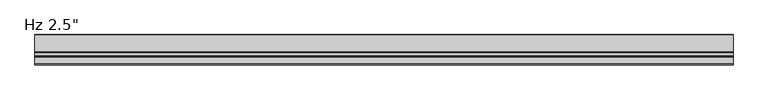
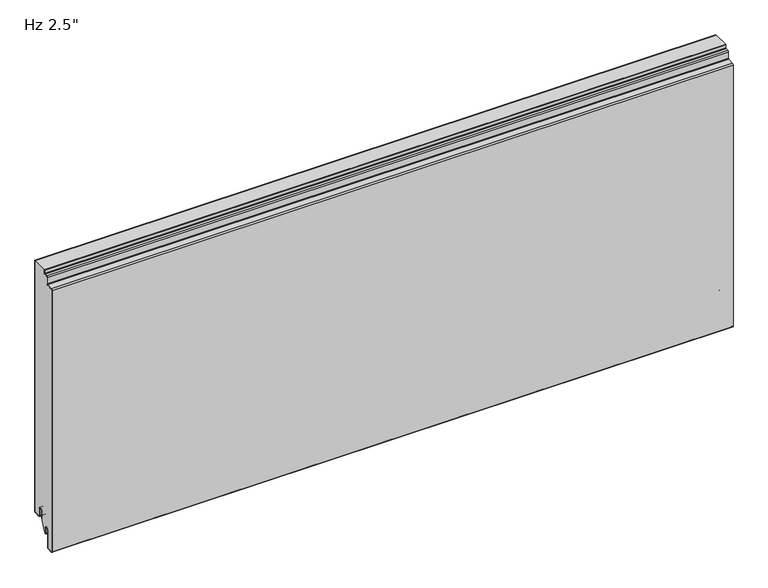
"""IFC4 building model written with IfcOpenShell, lengths in millimetres: plate geometry."""

from ifc_helpers import new_model, si_unit, point, frame, frame_2d, origin, place, context, project, spatial, polyline, circle_curve, trimmed, segment, composite_curve, outline, extrude, source, transform, mapped, element, save


def plate_5605c388(model_context):
    return source(origin(), model_context, "Body", "SweptSolid", [
        extrude(outline(composite_curve([segment(trimmed(circle_curve(frame_2d((-21.43125, 19.05)), 4.96875), [point((-16.4625, 19.05))], [point((-26.4, 19.05))], True, "CARTESIAN"), True, "CONTINUOUS"), segment(polyline([(-26.4, 19.05), (-26.4, -3.1323422), (-36.5326309, -23.01875), (-38.1, -23.01875), (-38.1, -13.5080174), (-38.89375, -13.5080174), (-38.6875, -11.9205174)]), True, "CONTINUOUS"), segment(trimmed(circle_curve(frame_2d((-43.65625, -11.9205174)), 4.96875), [point((-38.6875, -11.9205174))], [point((-48.625, -11.9205174))], True, "CARTESIAN"), True, "CONTINUOUS"), segment(polyline([(-48.625, -11.9205174), (-48.625, -50.1038221)]), True, "CONTINUOUS"), segment(trimmed(circle_curve(frame_2d((-50.00625, -50.1038221)), 1.38125), [point((-48.625, -50.1038221))], [point((-49.933961, -51.4831791))], False, "CARTESIAN"), True, "CONTINUOUS"), segment(polyline([(-49.933961, -51.4831791), (-61.046461, -52.0655606)]), True, "CONTINUOUS"), segment(trimmed(circle_curve(frame_2d((-61.11875, -50.6862035)), 1.38125), [point((-61.046461, -52.0655606))], [point((-62.5, -50.6862035))], False, "CARTESIAN"), True, "CONTINUOUS"), segment(polyline([(-62.5, -50.6862035), (-62.5, 541.4447607)]), True, "CONTINUOUS"), segment(trimmed(circle_curve(frame_2d((-61.11875, 541.4447607)), 1.38125), [point((-62.5, 541.4447607))], [point((-61.191039, 542.8241177))], False, "CARTESIAN"), True, "CONTINUOUS"), segment(polyline([(-61.191039, 542.8241177), (-47.4895807, 543.5421807)]), True, "CONTINUOUS"), segment(trimmed(circle_curve(frame_2d((-47.625, 546.1261347)), 2.5875), [point((-47.4895807, 543.5421807))], [point((-45.0375, 546.1261347))], True, "CARTESIAN"), True, "CONTINUOUS"), segment(polyline([(-45.0375, 546.1261347), (-45.0375, 560.2824411)]), True, "CONTINUOUS"), segment(trimmed(circle_curve(frame_2d((-43.65625, 560.2824411)), 1.38125), [point((-45.0375, 560.2824411))], [point((-43.728539, 561.6617981))], False, "CARTESIAN"), True, "CONTINUOUS"), segment(polyline([(-43.728539, 561.6617981), (-37.9645807, 561.9638744)]), True, "CONTINUOUS"), segment(trimmed(circle_curve(frame_2d((-38.1, 564.5478283)), 2.5875), [point((-37.9645807, 561.9638744))], [point((-35.5125, 564.5478283))], True, "CARTESIAN"), True, "CONTINUOUS"), segment(polyline([(-35.5125, 564.5478283), (-35.5125, 571.2), (-1.0, 571.2), (-1.0, 3.175)]), True, "CONTINUOUS"), segment(trimmed(circle_curve(frame_2d((-2.38125, 3.175)), 1.38125), [point((-1.0, 3.175))], [point((-2.38125, 1.79375))], False, "CARTESIAN"), True, "CONTINUOUS"), segment(polyline([(-2.38125, 1.79375), (-15.08125, 1.79375)]), True, "CONTINUOUS"), segment(trimmed(circle_curve(frame_2d((-15.08125, 3.175)), 1.38125), [point((-15.08125, 1.79375))], [point((-16.4625, 3.175))], False, "CARTESIAN"), True, "CONTINUOUS"), segment(polyline([(-16.4625, 3.175), (-16.4625, 19.05)]), True, "CONTINUOUS")], self_intersect=False)), frame((-730.0, 0.0, 0.0), z_axis=(1.0, 0.0, 0.0), x_axis=(0.0, 1.0, 0.0)), (0.0, 0.0, 1.0), 1460.0),
        extrude(outline(composite_curve([segment(polyline([(-25.4, 0.79375), (-26.4, 0.79375), (-26.4, 19.05)]), True, "CONTINUOUS"), segment(trimmed(circle_curve(frame_2d((-21.43125, 19.05)), 4.96875), [point((-26.4, 19.05))], [point((-16.4625, 19.05))], False, "CARTESIAN"), True, "CONTINUOUS"), segment(polyline([(-16.4625, 19.05), (-16.4625, 3.175)]), True, "CONTINUOUS"), segment(trimmed(circle_curve(frame_2d((-15.08125, 3.175)), 1.38125), [point((-16.4625, 3.175))], [point((-15.08125, 1.79375))], True, "CARTESIAN"), True, "CONTINUOUS"), segment(polyline([(-15.08125, 1.79375), (-2.38125, 1.79375)]), True, "CONTINUOUS"), segment(trimmed(circle_curve(frame_2d((-2.38125, 3.175)), 1.38125), [point((-2.38125, 1.79375))], [point((-1.0, 3.175))], True, "CARTESIAN"), True, "CONTINUOUS"), segment(polyline([(-1.0, 3.175), (-1.0, 571.2), (0.0, 571.2), (0.0, 3.175)]), True, "CONTINUOUS"), segment(trimmed(circle_curve(frame_2d((-2.38125, 3.175)), 2.38125), [point((0.0, 3.175))], [point((-2.38125, 0.79375))], False, "CARTESIAN"), True, "CONTINUOUS"), segment(polyline([(-2.38125, 0.79375), (-15.08125, 0.79375)]), True, "CONTINUOUS"), segment(trimmed(circle_curve(frame_2d((-15.08125, 3.175)), 2.38125), [point((-15.08125, 0.79375))], [point((-17.4625, 3.175))], False, "CARTESIAN"), True, "CONTINUOUS"), segment(polyline([(-17.4625, 3.175), (-17.4625, 19.05)]), True, "CONTINUOUS"), segment(trimmed(circle_curve(frame_2d((-21.43125, 19.05)), 3.96875), [point((-17.4625, 19.05))], [point((-25.4, 19.05))], True, "CARTESIAN"), True, "CONTINUOUS"), segment(polyline([(-25.4, 19.05), (-25.4, 0.79375)]), True, "CONTINUOUS")], self_intersect=False)), frame((-730.0, 0.0, 0.0), z_axis=(1.0, 0.0, 0.0), x_axis=(0.0, 1.0, 0.0)), (0.0, 0.0, 1.0), 1460.0),
        extrude(outline(composite_curve([segment(trimmed(circle_curve(frame_2d((-38.89375, -23.2314549)), 0.79375), [point((-38.1, -23.2314549))], [point((-39.6875, -23.2314549))], False, "CARTESIAN"), True, "CONTINUOUS"), segment(polyline([(-39.6875, -23.2314549), (-39.6875, -11.9205174)]), True, "CONTINUOUS"), segment(trimmed(circle_curve(frame_2d((-43.65625, -11.9205174)), 3.96875), [point((-39.6875, -11.9205174))], [point((-47.625, -11.9205174))], True, "CARTESIAN"), True, "CONTINUOUS"), segment(polyline([(-47.625, -11.9205174), (-47.625, -50.1038221)]), True, "CONTINUOUS"), segment(trimmed(circle_curve(frame_2d((-50.00625, -50.1038221)), 2.38125), [point((-47.625, -50.1038221))], [point((-49.881625, -52.4818086))], False, "CARTESIAN"), True, "CONTINUOUS"), segment(polyline([(-49.881625, -52.4818086), (-60.994125, -53.0641901)]), True, "CONTINUOUS"), segment(trimmed(circle_curve(frame_2d((-61.11875, -50.6862035)), 2.38125), [point((-60.994125, -53.0641901))], [point((-63.5, -50.6862035))], False, "CARTESIAN"), True, "CONTINUOUS"), segment(polyline([(-63.5, -50.6862035), (-63.5, 541.4447607)]), True, "CONTINUOUS"), segment(trimmed(circle_curve(frame_2d((-61.11875, 541.4447607)), 2.38125), [point((-63.5, 541.4447607))], [point((-61.243375, 543.8227473))], False, "CARTESIAN"), True, "CONTINUOUS"), segment(polyline([(-61.243375, 543.8227473), (-47.5419167, 544.5408103)]), True, "CONTINUOUS"), segment(trimmed(circle_curve(frame_2d((-47.625, 546.1261347)), 1.5875), [point((-47.5419167, 544.5408103))], [point((-46.0375, 546.1261347))], True, "CARTESIAN"), True, "CONTINUOUS"), segment(polyline([(-46.0375, 546.1261347), (-46.0375, 560.2824411)]), True, "CONTINUOUS"), segment(trimmed(circle_curve(frame_2d((-43.65625, 560.2824411)), 2.38125), [point((-46.0375, 560.2824411))], [point((-43.780875, 562.6604276))], False, "CARTESIAN"), True, "CONTINUOUS"), segment(polyline([(-43.780875, 562.6604276), (-38.0169167, 562.9625039)]), True, "CONTINUOUS"), segment(trimmed(circle_curve(frame_2d((-38.1, 564.5478283)), 1.5875), [point((-38.0169167, 562.9625039))], [point((-36.5125, 564.5478283))], True, "CARTESIAN"), True, "CONTINUOUS"), segment(polyline([(-36.5125, 564.5478283), (-36.5125, 571.2), (-35.5125, 571.2), (-35.5125, 564.5478283)]), True, "CONTINUOUS"), segment(trimmed(circle_curve(frame_2d((-38.1, 564.5478283)), 2.5875), [point((-35.5125, 564.5478283))], [point((-37.9645807, 561.9638744))], False, "CARTESIAN"), True, "CONTINUOUS"), segment(polyline([(-37.9645807, 561.9638744), (-43.728539, 561.6617981)]), True, "CONTINUOUS"), segment(trimmed(circle_curve(frame_2d((-43.65625, 560.2824411)), 1.38125), [point((-43.728539, 561.6617981))], [point((-45.0375, 560.2824411))], True, "CARTESIAN"), True, "CONTINUOUS"), segment(polyline([(-45.0375, 560.2824411), (-45.0375, 546.1261347)]), True, "CONTINUOUS"), segment(trimmed(circle_curve(frame_2d((-47.625, 546.1261347)), 2.5875), [point((-45.0375, 546.1261347))], [point((-47.4895807, 543.5421807))], False, "CARTESIAN"), True, "CONTINUOUS"), segment(polyline([(-47.4895807, 543.5421807), (-61.191039, 542.8241177)]), True, "CONTINUOUS"), segment(trimmed(circle_curve(frame_2d((-61.11875, 541.4447607)), 1.38125), [point((-61.191039, 542.8241177))], [point((-62.5, 541.4447607))], True, "CARTESIAN"), True, "CONTINUOUS"), segment(polyline([(-62.5, 541.4447607), (-62.5, -50.6862035)]), True, "CONTINUOUS"), segment(trimmed(circle_curve(frame_2d((-61.11875, -50.6862035)), 1.38125), [point((-62.5, -50.6862035))], [point((-61.046461, -52.0655606))], True, "CARTESIAN"), True, "CONTINUOUS"), segment(polyline([(-61.046461, -52.0655606), (-49.933961, -51.4831791)]), True, "CONTINUOUS"), segment(trimmed(circle_curve(frame_2d((-50.00625, -50.1038221)), 1.38125), [point((-49.933961, -51.4831791))], [point((-48.625, -50.1038221))], True, "CARTESIAN"), True, "CONTINUOUS"), segment(polyline([(-48.625, -50.1038221), (-48.625, -11.9205174)]), True, "CONTINUOUS"), segment(trimmed(circle_curve(frame_2d((-43.65625, -11.9205174)), 4.96875), [point((-48.625, -11.9205174))], [point((-38.6875, -11.9205174))], False, "CARTESIAN"), True, "CONTINUOUS"), segment(polyline([(-38.6875, -11.9205174), (-38.89375, -13.5080174), (-38.1, -13.5080174), (-38.1, -23.2314549)]), True, "CONTINUOUS")], self_intersect=False)), frame((-730.0, 0.0, 0.0), z_axis=(1.0, 0.0, 0.0), x_axis=(0.0, 1.0, 0.0)), (0.0, 0.0, 1.0), 1460.0),
    ])


if __name__ == "__main__":
    model = new_model("IFC4")
    model_context = context("Model", 3, world=origin())
    ifc_project = project(units=[si_unit("LENGTHUNIT", "METRE", prefix="MILLI")], contexts=[model_context])
    site = spatial("IfcSite", under=ifc_project)
    building = spatial("IfcBuilding", under=site)
    placement = place(None, origin())
    plate_shape = plate_5605c388(model_context)
    element("IfcPlate", 1, ObjectType="KIP-24-DWHR-R19-CP-Hz-F : Hz 2.5\"", at=placement, inside=building, context=model_context, shape_type="MappedRepresentation", body=[
        mapped(plate_shape, transform((0.0, 0.0, 0.0), x_axis=(1.0, 0.0, 0.0), y_axis=(0.0, 1.0, 0.0), z_axis=(0.0, 0.0, 1.0))),
    ])
    save(model, "model.ifc")
